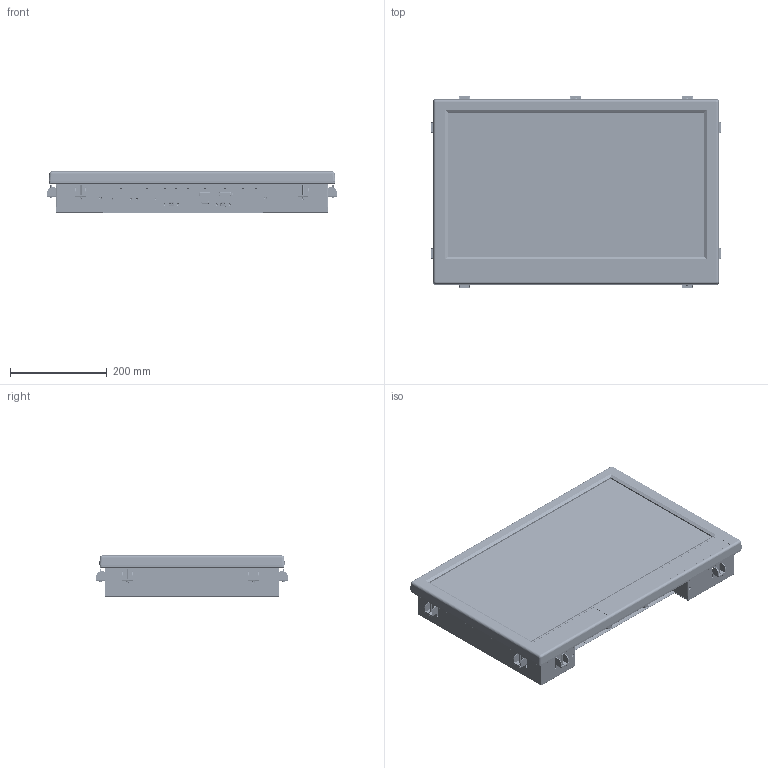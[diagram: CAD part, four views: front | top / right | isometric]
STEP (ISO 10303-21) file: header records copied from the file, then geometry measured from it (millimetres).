
FILE_DESCRIPTION((''),'2;1');
FILE_NAME('PRT0001','2012-06-15T',('Vincent_Huang'),(''),'PRO/ENGINEER BY PARAMETRIC TECHNOLOGY CORPORATION, 2004320','PRO/ENGINEER BY PARAMETRIC TECHNOLOGY CORPORATION, 2004320','');
FILE_SCHEMA(('CONFIG_CONTROL_DESIGN'));
Products named in the file (1): PRT0001
Bounding box: 601.6 x 398.6 x 85 mm (x, y, z)
Surface area: 4400277.3 mm2 (no closed solid volume)
Topology: 0 solids, 318 shells, 17345 faces, 46870 edges, 30133 vertices
Faces by surface type: plane 10174, cylinder 5500, torus 624, bspline 531, cone 386, extrusion 69, sphere 61
Entity records: 574967 total; most frequent: CARTESIAN_POINT 132600, ORIENTED_EDGE 93050, DIRECTION 90347, EDGE_CURVE 46759, VECTOR 30431, LINE 30362, VERTEX_POINT 30133, AXIS2_PLACEMENT_3D 29958
